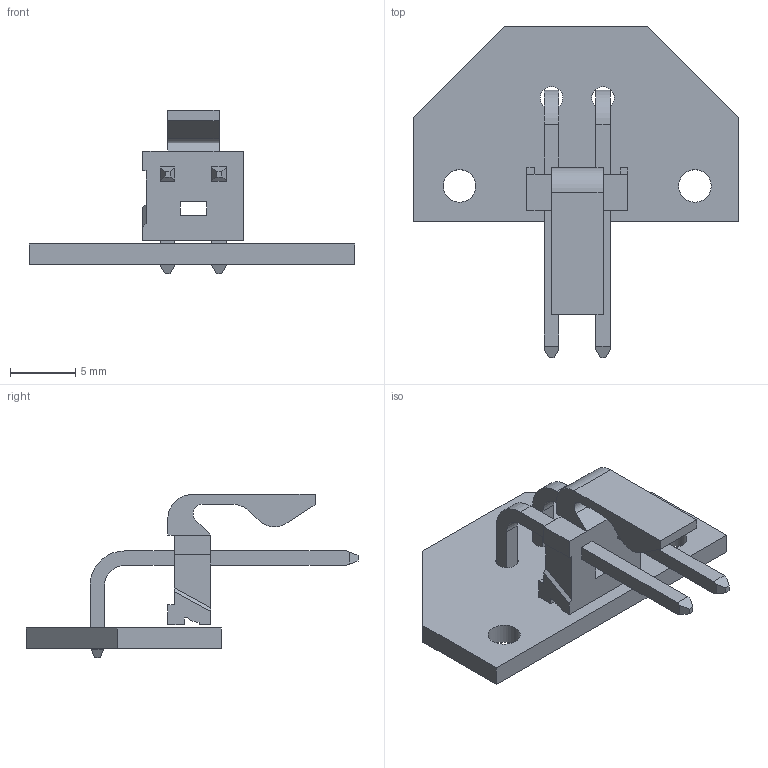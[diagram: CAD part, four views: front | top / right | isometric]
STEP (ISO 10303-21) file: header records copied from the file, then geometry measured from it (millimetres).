
FILE_DESCRIPTION(/* description */ (''),/* implementation_level */ '2;1');
FILE_NAME(/* name */ 'C:/Users/priba/Documents/Temp/Export/mrm-25d.step',/* time_stamp */ '2019-09-09T12:19:01+02:00',/* author */ (''),/* organization */ (''),/* preprocessor_version */ 'ST-DEVELOPER v18',/* originating_system */ 'Autodesk Translation Framework v8.6.0.1094',/* authorisation */ '');
FILE_SCHEMA (('AUTOMOTIVE_DESIGN { 1 0 10303 214 3 1 1 }'));
Length unit declared in the file: millimetre
Products named in the file (5): mrm-25d; PCB Component; Board; MOLEX_1718141002; MOTOR_25D
Assembly tree (4 placements, depth 3):
  mrm-25d
    PCB Component
      Board
      MOLEX_1718141002
      MOTOR_25D
Bounding box: 25 x 25.53 x 12.55 mm (x, y, z)
Volume: 764.1 mm3; surface area: 1341.5 mm2
Topology: 2 solids, 2 shells, 103 faces, 284 edges, 188 vertices
Faces by surface type: plane 90, cylinder 13
Full cylindrical faces by diameter (mm): 1.73 x2, 2.5 x2
Entity records: 3413 total; most frequent: CARTESIAN_POINT 584, ORIENTED_EDGE 568, DIRECTION 534, EDGE_CURVE 284, LINE 258, VECTOR 258, VERTEX_POINT 188, AXIS2_PLACEMENT_3D 138
